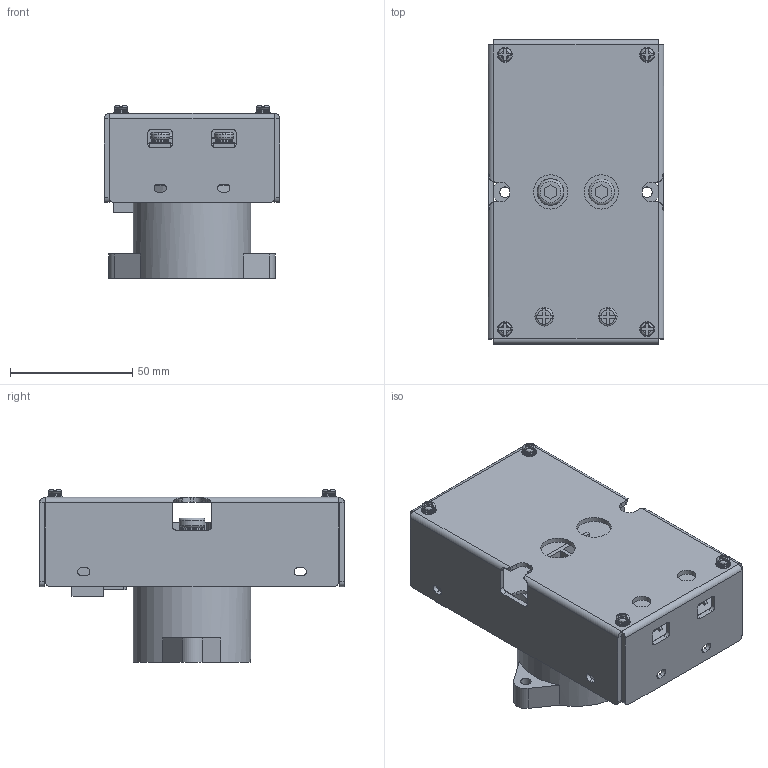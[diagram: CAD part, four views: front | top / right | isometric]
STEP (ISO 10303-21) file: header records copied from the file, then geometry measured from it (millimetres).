
FILE_DESCRIPTION(/* description */ (''),/* implementation_level */ '2;1');
FILE_NAME(/* name */ 'G:\019_BLVD ICL\[ BLVD-XXV150A-S ]\[ 3D 파일 (2025.02~) ]\[ STEP, IGES ]\[3D] BLVD-25V(50V)150A-S.stp',/* time_stamp */ '2025-04-21T16:05:30+09:00',/* author */ ('jjang'),/* organization */ (''),/* preprocessor_version */ 'ST-DEVELOPER v18.1',/* originating_system */ 'Autodesk Inventor 2021',/* authorisation */ '');
FILE_SCHEMA (('CONFIG_CONTROL_DESIGN'));
Length unit declared in the file: inch
Products named in the file (1): ICL RELAY ASS'Y_Shrinkwrap_2
Bounding box: 71.7 x 124.4 x 70.6 mm (x, y, z)
Volume: 160381.4 mm3; surface area: 83648.1 mm2
Topology: 6 solids, 6 shells, 868 faces, 2316 edges, 1551 vertices
Faces by surface type: plane 517, cylinder 239, cone 56, torus 40, bspline 8, sphere 8
Full cylindrical faces by diameter (mm): 2.8 x4, 2.957 x8, 3 x4, 3.3 x4, 3.848 x1, 3.86 x1, 4 x6, 4.2 x2, 4.3 x2, 4.5 x2, 5.429 x4, 5.5 x2, 5.636 x4, 5.744 x2, 6.2 x2, 6.3 x3, 7 x1, 7.084 x2, 7.5 x2, 7.8 x2, 8 x1, 8.5 x1, 10.286 x1, 10.5 x2, 12 x3, 14 x2, 48 x1, 50.6 x1
Entity records: 29380 total; most frequent: CARTESIAN_POINT 6672, DIRECTION 4685, ORIENTED_EDGE 4632, EDGE_CURVE 2316, AXIS2_PLACEMENT_3D 1668, VERTEX_POINT 1551, LINE 1349, VECTOR 1349
